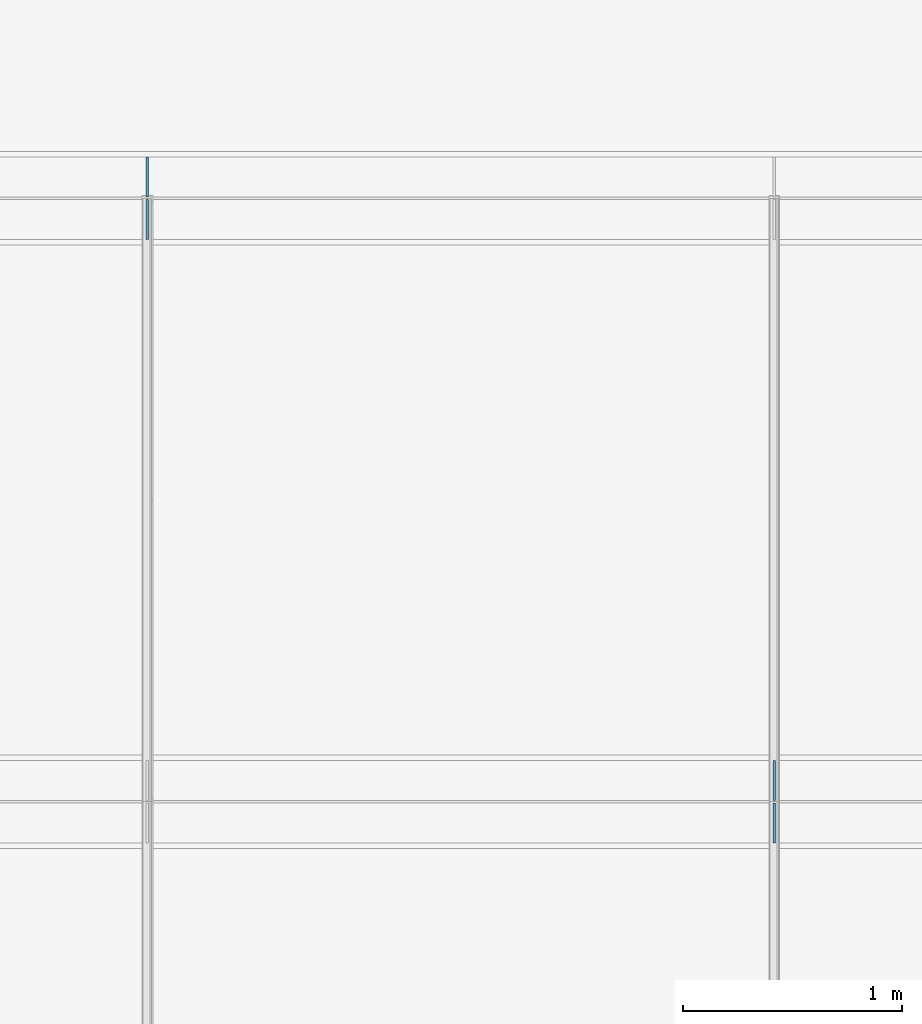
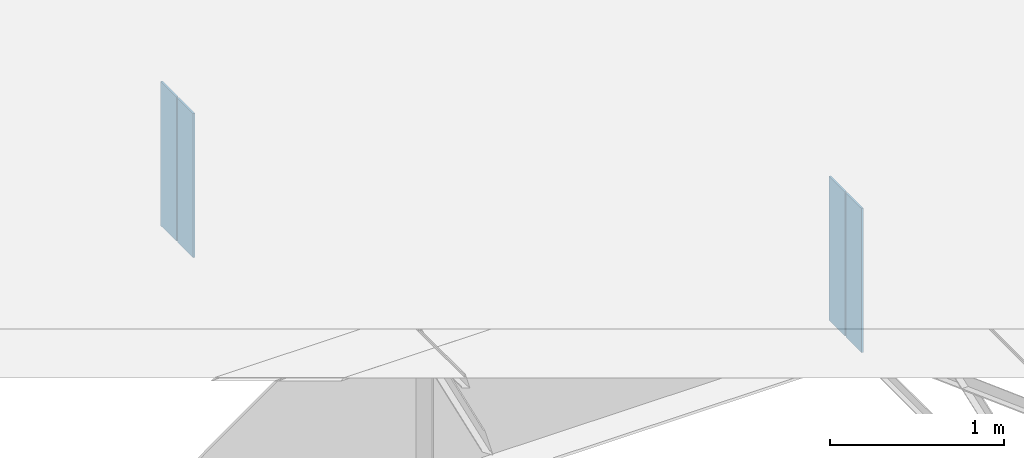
# One storey, part 10 of 12: 4 plates.
"""IFC4 building model written with IfcOpenShell, lengths in metres."""

from ifc_helpers import new_model, si_unit, frame, origin, origin_with_axes, origin_2d_with_axis, place, context, subcontext, project, spatial, rectangle, extrude, element, save


model = new_model("IFC4")

# Units and contexts
model_context = context("Model", 3, precision=1e-05, world=origin())
body_context = subcontext(model_context, "Body", "Model", "MODEL_VIEW")
ifc_project = project(units=[si_unit("LENGTHUNIT", "METRE"), si_unit("AREAUNIT", "SQUARE_METRE"), si_unit("VOLUMEUNIT", "CUBIC_METRE"), si_unit("PLANEANGLEUNIT", "RADIAN")], contexts=[model_context])

# Site, building, storey
site_placement = place(None, origin_with_axes())
site = spatial("IfcSite", under=ifc_project, at=site_placement, Name="Default Site")
building_placement = place(site_placement, origin_with_axes())
building = spatial("IfcBuilding", under=site, at=building_placement, Name="Bridge Structure")
storey_placement = place(building_placement, origin_with_axes())
storey = spatial("IfcBuildingStorey", under=building, at=storey_placement, Name="Superstructure")

# Plates
for number, where, z_axis, x_axis, name in (
    (1, (11.428, 2.84625, -0.507), (0.0, 0.0, 1.0), (1.0, 0.0, 0.0), "Intermediate Stiffener 4"),
    (2, (11.428, 2.65375, -0.507), (0.0, 0.0, 1.0), (1.0, 0.0, 0.0), "Intermediate Stiffener 4"),
    (3, (8.571, 5.59625, -0.507), (0.0, 0.0, 1.0), (1.0, 0.0, 0.0), "Intermediate Stiffener 5"),
    (4, (8.571, 5.4037500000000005, -0.507), (0.0, 0.0, 1.0), (1.0, 0.0, 0.0), "Intermediate Stiffener 5"),
):
    element("IfcPlate", number, at=place(storey_placement, frame(where, z_axis=z_axis, x_axis=x_axis)), inside=storey, Name=name, context=body_context, shape_type="SweptSolid", body=[
        extrude(rectangle(XDim=0.012, YDim=0.1825, at=origin_2d_with_axis()), origin_with_axes(), (0.0, 0.0, 1.0), 1.014),
    ])

save(model, "model.ifc")
